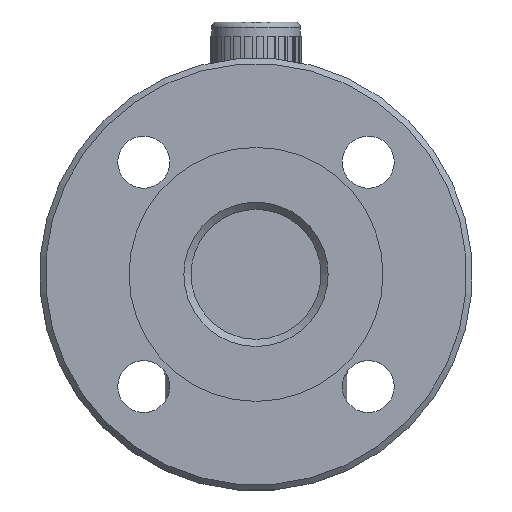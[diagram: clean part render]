
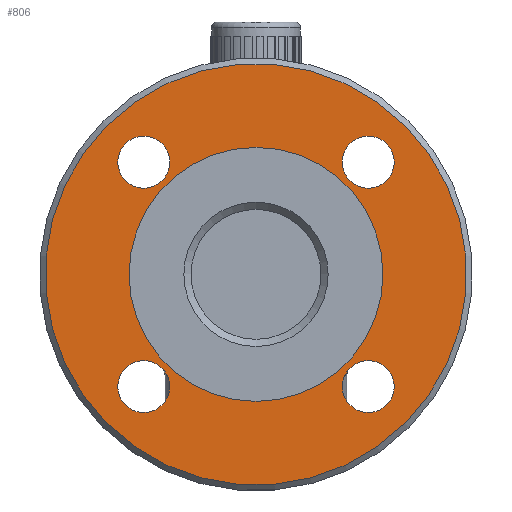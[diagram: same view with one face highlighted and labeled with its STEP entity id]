
A CAD part, left-side view. The second image highlights one B-rep face of the part: STEP entity #806.
In plain terms, the highlighted planar face has unit normal (-1, 0, 0).
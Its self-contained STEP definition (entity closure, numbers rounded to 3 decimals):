
#293=FACE_BOUND('',#1411,.T.);
#294=FACE_BOUND('',#1412,.T.);
#295=FACE_BOUND('',#1413,.T.);
#296=FACE_BOUND('',#1414,.T.);
#297=FACE_BOUND('',#1415,.T.);
#298=FACE_BOUND('',#1416,.T.);
#562=PLANE('',#4624);
#806=ADVANCED_FACE('',(#293,#294,#295,#296,#297,#298),#562,.T.);
#1411=EDGE_LOOP('',(#2341));
#1412=EDGE_LOOP('',(#2342));
#1413=EDGE_LOOP('',(#2343));
#1414=EDGE_LOOP('',(#2344));
#1415=EDGE_LOOP('',(#2345));
#1416=EDGE_LOOP('',(#2346));
#1712=CIRCLE('',#4580,44.);
#1733=CIRCLE('',#4619,73.);
#1734=CIRCLE('',#4620,9.);
#1735=CIRCLE('',#4621,9.);
#1736=CIRCLE('',#4622,9.);
#1737=CIRCLE('',#4623,9.);
#2341=ORIENTED_EDGE('',*,*,#3618,.T.);
#2342=ORIENTED_EDGE('',*,*,#3591,.T.);
#2343=ORIENTED_EDGE('',*,*,#3619,.T.);
#2344=ORIENTED_EDGE('',*,*,#3620,.T.);
#2345=ORIENTED_EDGE('',*,*,#3621,.T.);
#2346=ORIENTED_EDGE('',*,*,#3622,.T.);
#3134=VERTEX_POINT('',#13075);
#3153=VERTEX_POINT('',#13145);
#3154=VERTEX_POINT('',#13147);
#3155=VERTEX_POINT('',#13149);
#3156=VERTEX_POINT('',#13151);
#3157=VERTEX_POINT('',#13153);
#3591=EDGE_CURVE('',#3134,#3134,#1712,.T.);
#3618=EDGE_CURVE('',#3153,#3153,#1733,.T.);
#3619=EDGE_CURVE('',#3154,#3154,#1734,.T.);
#3620=EDGE_CURVE('',#3155,#3155,#1735,.T.);
#3621=EDGE_CURVE('',#3156,#3156,#1736,.T.);
#3622=EDGE_CURVE('',#3157,#3157,#1737,.T.);
#4580=AXIS2_PLACEMENT_3D('',#13074,#5318,#5319);
#4619=AXIS2_PLACEMENT_3D('',#13144,#5400,#5401);
#4620=AXIS2_PLACEMENT_3D('',#13146,#5402,#5403);
#4621=AXIS2_PLACEMENT_3D('',#13148,#5404,#5405);
#4622=AXIS2_PLACEMENT_3D('',#13150,#5406,#5407);
#4623=AXIS2_PLACEMENT_3D('',#13152,#5408,#5409);
#4624=AXIS2_PLACEMENT_3D('',#13154,#5410,#5411);
#5318=DIRECTION('',(1.,0.,0.));
#5319=DIRECTION('',(0.,0.,1.));
#5400=DIRECTION('',(-1.,0.,0.));
#5401=DIRECTION('',(0.,0.707,0.707));
#5402=DIRECTION('',(1.,0.,0.));
#5403=DIRECTION('',(0.,-0.707,0.707));
#5404=DIRECTION('',(1.,0.,0.));
#5405=DIRECTION('',(0.,0.707,0.707));
#5406=DIRECTION('',(1.,0.,0.));
#5407=DIRECTION('',(0.,0.707,-0.707));
#5408=DIRECTION('',(1.,0.,0.));
#5409=DIRECTION('',(0.,-0.707,-0.707));
#5410=DIRECTION('',(-1.,0.,0.));
#5411=DIRECTION('',(0.,0.707,0.707));
#13074=CARTESIAN_POINT('',(3.,0.,100.));
#13075=CARTESIAN_POINT('',(3.,0.,144.));
#13144=CARTESIAN_POINT('',(3.,0.,100.));
#13145=CARTESIAN_POINT('',(3.,51.619,151.619));
#13146=CARTESIAN_POINT('',(3.,38.891,138.891));
#13147=CARTESIAN_POINT('',(3.,32.527,145.255));
#13148=CARTESIAN_POINT('',(3.,38.891,61.109));
#13149=CARTESIAN_POINT('',(3.,45.255,67.473));
#13150=CARTESIAN_POINT('',(3.,-38.891,61.109));
#13151=CARTESIAN_POINT('',(3.,-32.527,54.745));
#13152=CARTESIAN_POINT('',(3.,-38.891,138.891));
#13153=CARTESIAN_POINT('',(3.,-45.255,132.527));
#13154=CARTESIAN_POINT('',(3.,0.,100.));
